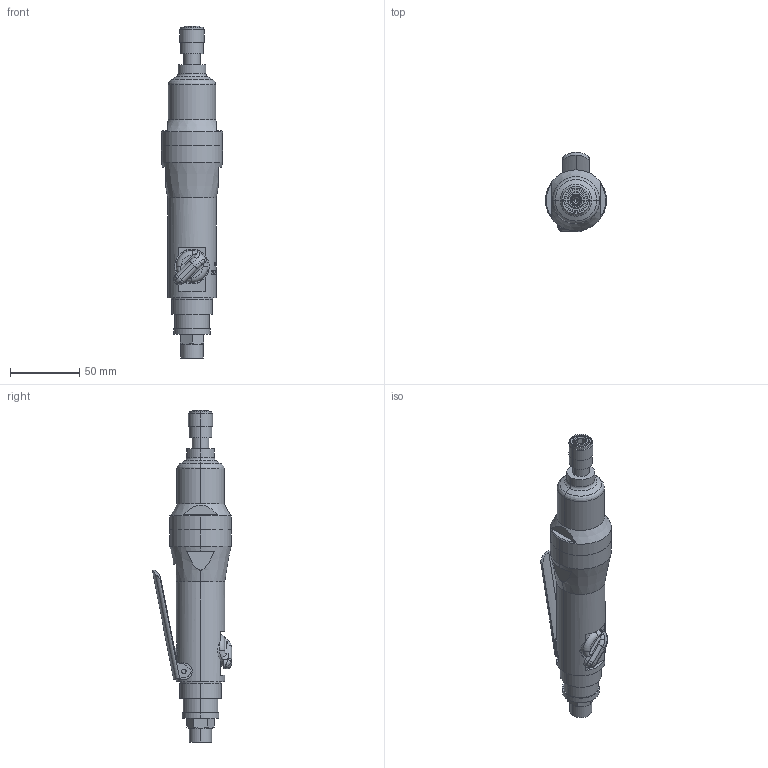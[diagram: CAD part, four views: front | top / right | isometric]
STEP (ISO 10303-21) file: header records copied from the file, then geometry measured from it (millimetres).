
FILE_DESCRIPTION (( 'STEP AP203' ), '1' );
FILE_NAME ('U-350SD.STEP', '2006-12-03T23:59:30', ( ' ' ), ( ' ' ), 'SwSTEP 2.0', 'SolidWorks 2003240', '' );
FILE_SCHEMA (( 'CONFIG_CONTROL_DESIGN' ));
Length unit declared in the file: millimetre
Products named in the file (9): 1930253_U-350SD_蹬怮椔; 1802122_U-350SD_蹬怮椔; U-350SD; 1963507_U-350SD_蹬怮椔; 1924394_U-350SD_蹬怮椔; PIN_U-350SD_蹬怮椔; 1961077_U-350SD_蹬怮椔; 9810020_U-350SD_蹬怮椔; 0113511_U-350SD_蹬怮椔
Assembly tree (8 placements, depth 2):
  U-350SD
    1924394_U-350SD_蹬怮椔
    1802122_U-350SD_蹬怮椔
    1961077_U-350SD_蹬怮椔
    9810020_U-350SD_蹬怮椔
    PIN_U-350SD_蹬怮椔
    1930253_U-350SD_蹬怮椔
    0113511_U-350SD_蹬怮椔
    1963507_U-350SD_蹬怮椔
Bounding box: 44 x 57.07 x 239.4 mm (x, y, z)
Volume: 199134.7 mm3; surface area: 40219.4 mm2
Topology: 8 solids, 8 shells, 447 faces, 1152 edges, 744 vertices
Faces by surface type: cylinder 157, plane 142, bspline 104, cone 26, torus 14, sphere 4
Entity records: 30336 total; most frequent: CARTESIAN_POINT 19463, ORIENTED_EDGE 2278, DIRECTION 1726, EDGE_CURVE 1139, VERTEX_POINT 741, AXIS2_PLACEMENT_3D 649, EDGE_LOOP 488, ADVANCED_FACE 447
